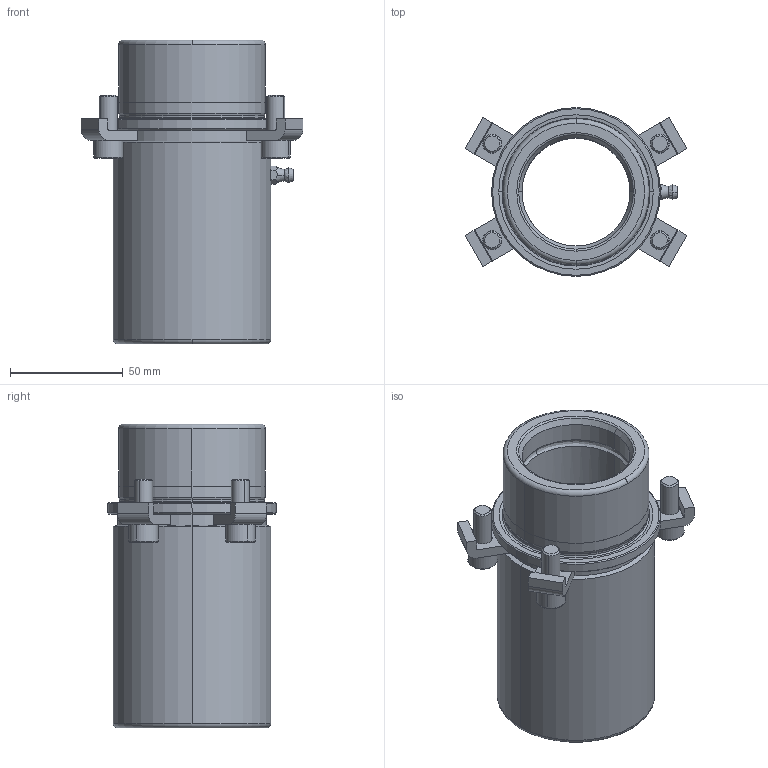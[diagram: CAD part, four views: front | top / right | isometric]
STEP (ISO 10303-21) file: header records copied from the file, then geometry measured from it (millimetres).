
FILE_DESCRIPTION((''),'2;1');
FILE_NAME('B10_048_100.stp','2008-11-06T09:03:53',(''),(''),'Mechanical Desktop 2009','Mechanical Desktop 2009',', , ');
FILE_SCHEMA(('CONFIG_CONTROL_DESIGN'));
Length unit declared in the file: millimetre
Products named in the file (2): Product; blmdl1
Assembly tree (1 placements, depth 2):
  Product
    blmdl1
Bounding box: 98.54 x 75 x 135 mm (x, y, z)
Volume: 268268.1 mm3; surface area: 64491.7 mm2
Topology: 10 solids, 10 shells, 202 faces, 505 edges, 332 vertices
Faces by surface type: plane 82, cylinder 60, cone 24, bspline 18, torus 18
Entity records: 7380 total; most frequent: CARTESIAN_POINT 2302, DIRECTION 1111, ORIENTED_EDGE 1002, EDGE_CURVE 501, AXIS2_PLACEMENT_3D 441, VERTEX_POINT 330, CIRCLE 255, VECTOR 229
